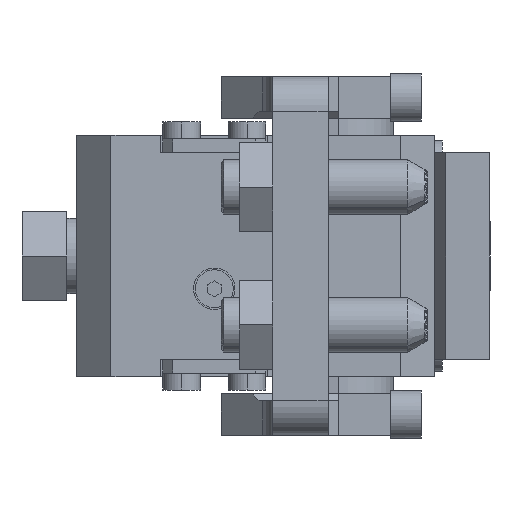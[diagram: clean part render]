
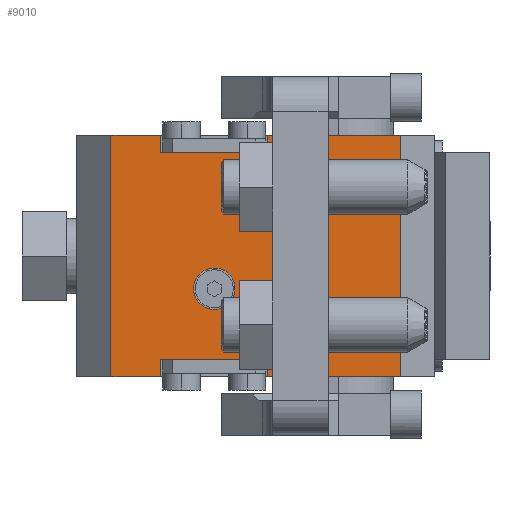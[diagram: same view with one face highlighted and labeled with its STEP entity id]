
A CAD part, left-side view. The second image highlights one B-rep face of the part: STEP entity #9010.
In plain terms, the highlighted planar face has unit normal (-1, 0, 0).
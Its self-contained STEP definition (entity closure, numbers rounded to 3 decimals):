
#716 = VERTEX_POINT ( 'NONE', #4634 ) ;
#932 = VERTEX_POINT ( 'NONE', #5230 ) ;
#938 = DIRECTION ( 'NONE',  ( 0., 1., 0. ) ) ;
#1121 = ORIENTED_EDGE ( 'NONE', *, *, #1249, .F. ) ;
#1154 = EDGE_CURVE ( 'NONE', #11891, #14598, #12381, .T. ) ;
#1249 = EDGE_CURVE ( 'NONE', #10018, #10039, #11470, .T. ) ;
#1537 = CARTESIAN_POINT ( 'NONE',  ( -28., 10.25, 17.5 ) ) ;
#1615 = CARTESIAN_POINT ( 'NONE',  ( -28., 10.25, -17.5 ) ) ;
#1837 = LINE ( 'NONE', #15329, #4457 ) ;
#2221 = EDGE_LOOP ( 'NONE', ( #5726, #8796, #8492, #8953, #9210, #9412, #10632, #10827, #11128, #8109, #1121, #5581 ) ) ;
#2616 = VECTOR ( 'NONE', #7394, 1000. ) ;
#2647 = EDGE_CURVE ( 'NONE', #10194, #7778, #3570, .T. ) ;
#2652 = DIRECTION ( 'NONE',  ( 1., 0., 0. ) ) ;
#3027 = AXIS2_PLACEMENT_3D ( 'NONE', #4204, #4202, #4192 ) ;
#3121 = VERTEX_POINT ( 'NONE', #14175 ) ;
#3192 = VECTOR ( 'NONE', #8789, 1000. ) ;
#3423 = DIRECTION ( 'NONE',  ( 0., 0., 1. ) ) ;
#3440 = CARTESIAN_POINT ( 'NONE',  ( -28., 10.25, -25. ) ) ;
#3484 = DIRECTION ( 'NONE',  ( 0., -1., 0. ) ) ;
#3521 = ORIENTED_EDGE ( 'NONE', *, *, #4299, .F. ) ;
#3570 = LINE ( 'NONE', #3440, #5364 ) ;
#3716 = DIRECTION ( 'NONE',  ( 0., 0., -1. ) ) ;
#3787 = CIRCLE ( 'NONE', #3027, 3. ) ;
#3951 = VECTOR ( 'NONE', #3716, 1000. ) ;
#4192 = DIRECTION ( 'NONE',  ( 0., 1., 0. ) ) ;
#4202 = DIRECTION ( 'NONE',  ( -1., 0., 0. ) ) ;
#4204 = CARTESIAN_POINT ( 'NONE',  ( -28., 18., -4.75 ) ) ;
#4278 = CARTESIAN_POINT ( 'NONE',  ( -28., 33., 17.5 ) ) ;
#4279 = AXIS2_PLACEMENT_3D ( 'NONE', #8556, #6887, #5297 ) ;
#4299 = EDGE_CURVE ( 'NONE', #716, #13878, #3787, .T. ) ;
#4368 = VECTOR ( 'NONE', #5682, 1000. ) ;
#4457 = VECTOR ( 'NONE', #13721, 1000. ) ;
#4461 = DIRECTION ( 'NONE',  ( 0., -1., 0. ) ) ;
#4590 = DIRECTION ( 'NONE',  ( 0., -1., 0. ) ) ;
#4634 = CARTESIAN_POINT ( 'NONE',  ( -28., 15., -4.75 ) ) ;
#4996 = VERTEX_POINT ( 'NONE', #6348 ) ;
#5125 = CARTESIAN_POINT ( 'NONE',  ( -28., 33., -17.5 ) ) ;
#5230 = CARTESIAN_POINT ( 'NONE',  ( -28., 25.75, 15. ) ) ;
#5297 = DIRECTION ( 'NONE',  ( 0., 1., 0. ) ) ;
#5322 = VECTOR ( 'NONE', #11452, 1000. ) ;
#5358 = CARTESIAN_POINT ( 'NONE',  ( -28., 25.75, 25. ) ) ;
#5364 = VECTOR ( 'NONE', #3423, 1000. ) ;
#5581 = ORIENTED_EDGE ( 'NONE', *, *, #7163, .F. ) ;
#5633 = AXIS2_PLACEMENT_3D ( 'NONE', #4278, #2652, #938 ) ;
#5682 = DIRECTION ( 'NONE',  ( 0., -1., 0. ) ) ;
#5726 = ORIENTED_EDGE ( 'NONE', *, *, #9224, .T. ) ;
#5852 = FACE_BOUND ( 'NONE', #6416, .T. ) ;
#5948 = PLANE ( 'NONE',  #5633 ) ;
#6025 = FACE_OUTER_BOUND ( 'NONE', #2221, .T. ) ;
#6128 = CARTESIAN_POINT ( 'NONE',  ( -28., 25.75, -15. ) ) ;
#6261 = CARTESIAN_POINT ( 'NONE',  ( -28., 33., 17.5 ) ) ;
#6348 = CARTESIAN_POINT ( 'NONE',  ( -28., 25.75, 17.5 ) ) ;
#6416 = EDGE_LOOP ( 'NONE', ( #7715, #3521 ) ) ;
#6752 = LINE ( 'NONE', #5125, #9118 ) ;
#6835 = DIRECTION ( 'NONE',  ( 0., -1., 0. ) ) ;
#6887 = DIRECTION ( 'NONE',  ( -1., 0., 0. ) ) ;
#6938 = LINE ( 'NONE', #5358, #3951 ) ;
#7019 = VECTOR ( 'NONE', #4590, 1000. ) ;
#7163 = EDGE_CURVE ( 'NONE', #8540, #10018, #8969, .T. ) ;
#7176 = VECTOR ( 'NONE', #6835, 1000. ) ;
#7193 = EDGE_CURVE ( 'NONE', #13878, #716, #12479, .T. ) ;
#7238 = CARTESIAN_POINT ( 'NONE',  ( -28., 33., 17.5 ) ) ;
#7394 = DIRECTION ( 'NONE',  ( 0., 0., -1. ) ) ;
#7688 = LINE ( 'NONE', #6128, #9713 ) ;
#7693 = VERTEX_POINT ( 'NONE', #15196 ) ;
#7715 = ORIENTED_EDGE ( 'NONE', *, *, #7193, .F. ) ;
#7778 = VERTEX_POINT ( 'NONE', #14072 ) ;
#7820 = LINE ( 'NONE', #6261, #7019 ) ;
#7921 = EDGE_CURVE ( 'NONE', #3121, #11891, #6752, .T. ) ;
#8020 = CARTESIAN_POINT ( 'NONE',  ( -28., 33., 17.5 ) ) ;
#8109 = ORIENTED_EDGE ( 'NONE', *, *, #11520, .T. ) ;
#8483 = CARTESIAN_POINT ( 'NONE',  ( -28., 33., -17.5 ) ) ;
#8492 = ORIENTED_EDGE ( 'NONE', *, *, #13225, .F. ) ;
#8540 = VERTEX_POINT ( 'NONE', #1537 ) ;
#8556 = CARTESIAN_POINT ( 'NONE',  ( -28., 18., -4.75 ) ) ;
#8789 = DIRECTION ( 'NONE',  ( 0., -1., 0. ) ) ;
#8796 = ORIENTED_EDGE ( 'NONE', *, *, #11828, .F. ) ;
#8894 = EDGE_CURVE ( 'NONE', #10388, #4996, #7820, .T. ) ;
#8953 = ORIENTED_EDGE ( 'NONE', *, *, #8894, .F. ) ;
#8969 = LINE ( 'NONE', #7238, #4368 ) ;
#9010 = ADVANCED_FACE ( 'NONE', ( #6025, #5852 ), #5948, .F. ) ;
#9118 = VECTOR ( 'NONE', #3484, 1000. ) ;
#9121 = CARTESIAN_POINT ( 'NONE',  ( -28., 10.25, 25. ) ) ;
#9210 = ORIENTED_EDGE ( 'NONE', *, *, #14121, .T. ) ;
#9224 = EDGE_CURVE ( 'NONE', #8540, #7693, #10601, .T. ) ;
#9405 = EDGE_CURVE ( 'NONE', #14598, #7778, #7688, .T. ) ;
#9412 = ORIENTED_EDGE ( 'NONE', *, *, #7921, .T. ) ;
#9713 = VECTOR ( 'NONE', #4461, 1000. ) ;
#9787 = CARTESIAN_POINT ( 'NONE',  ( -28., 21., -4.75 ) ) ;
#10018 = VERTEX_POINT ( 'NONE', #14870 ) ;
#10039 = VERTEX_POINT ( 'NONE', #12297 ) ;
#10194 = VERTEX_POINT ( 'NONE', #1615 ) ;
#10293 = CARTESIAN_POINT ( 'NONE',  ( -28., 25.75, 15. ) ) ;
#10388 = VERTEX_POINT ( 'NONE', #8020 ) ;
#10601 = LINE ( 'NONE', #9121, #2616 ) ;
#10632 = ORIENTED_EDGE ( 'NONE', *, *, #1154, .T. ) ;
#10827 = ORIENTED_EDGE ( 'NONE', *, *, #9405, .T. ) ;
#10852 = CARTESIAN_POINT ( 'NONE',  ( -28., 25.75, -15. ) ) ;
#11128 = ORIENTED_EDGE ( 'NONE', *, *, #2647, .F. ) ;
#11391 = LINE ( 'NONE', #8483, #7176 ) ;
#11452 = DIRECTION ( 'NONE',  ( 0., 0., -1. ) ) ;
#11454 = CARTESIAN_POINT ( 'NONE',  ( -28., -9., 17.5 ) ) ;
#11470 = LINE ( 'NONE', #11454, #5322 ) ;
#11520 = EDGE_CURVE ( 'NONE', #10194, #10039, #11391, .T. ) ;
#11602 = LINE ( 'NONE', #10293, #3192 ) ;
#11828 = EDGE_CURVE ( 'NONE', #932, #7693, #11602, .T. ) ;
#11891 = VERTEX_POINT ( 'NONE', #14217 ) ;
#12297 = CARTESIAN_POINT ( 'NONE',  ( -28., -9., -17.5 ) ) ;
#12318 = DIRECTION ( 'NONE',  ( 0., 0., 1. ) ) ;
#12320 = CARTESIAN_POINT ( 'NONE',  ( -28., 25.75, -25. ) ) ;
#12381 = LINE ( 'NONE', #12320, #13368 ) ;
#12479 = CIRCLE ( 'NONE', #4279, 3. ) ;
#13225 = EDGE_CURVE ( 'NONE', #4996, #932, #6938, .T. ) ;
#13368 = VECTOR ( 'NONE', #12318, 1000. ) ;
#13721 = DIRECTION ( 'NONE',  ( 0., 0., -1. ) ) ;
#13878 = VERTEX_POINT ( 'NONE', #9787 ) ;
#14072 = CARTESIAN_POINT ( 'NONE',  ( -28., 10.25, -15. ) ) ;
#14121 = EDGE_CURVE ( 'NONE', #10388, #3121, #1837, .T. ) ;
#14175 = CARTESIAN_POINT ( 'NONE',  ( -28., 33., -17.5 ) ) ;
#14217 = CARTESIAN_POINT ( 'NONE',  ( -28., 25.75, -17.5 ) ) ;
#14598 = VERTEX_POINT ( 'NONE', #10852 ) ;
#14870 = CARTESIAN_POINT ( 'NONE',  ( -28., -9., 17.5 ) ) ;
#15196 = CARTESIAN_POINT ( 'NONE',  ( -28., 10.25, 15. ) ) ;
#15329 = CARTESIAN_POINT ( 'NONE',  ( -28., 33., 17.5 ) ) ;
